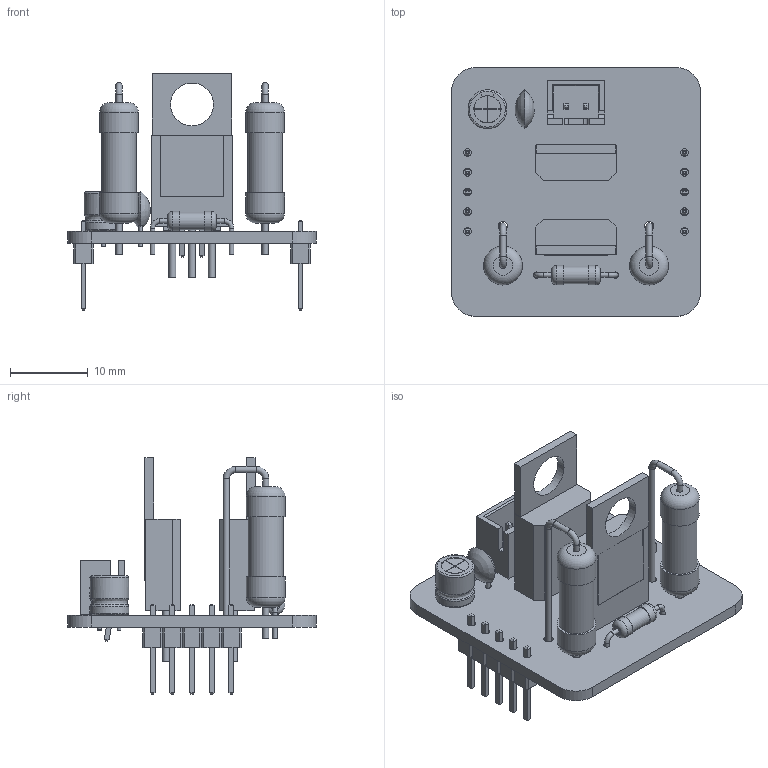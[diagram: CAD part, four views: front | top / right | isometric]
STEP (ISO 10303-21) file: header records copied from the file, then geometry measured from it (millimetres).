
FILE_DESCRIPTION(('KiCad electronic assembly'),'2;1');
FILE_NAME('Basic_Laser_Driver.step','2026-10-09T15:44:59',('Pcbnew'),( 'Kicad'),'Open CASCADE STEP processor 7.9','KiCad to STEP converter' ,'Unknown');
FILE_SCHEMA(('AUTOMOTIVE_DESIGN { 1 0 10303 214 1 1 1 1 }'));
Length unit declared in the file: millimetre
Products named in the file (9): Basic_Laser_Driver 1; CP_Radial_D5.0mm_P2.50mm; TO-220_STM; R_Axial_DIN0516_L15.5mm_D5.0mm_P5.08mm_Vertical; JST_XH_B2B-XH-A_1x02_P2.50mm_Vertical; C_Disc_D5.0mm_W2.5mm_P2.50mm; R_Axial_DIN0207_L6.3mm_D2.5mm_P10.16mm_Horizontal; PinHeader_1x05_P2.54mm_Vertical; Basic_Laser_Driver_PCB
Assembly tree (11 placements, depth 2):
  Basic_Laser_Driver 1
    CP_Radial_D5.0mm_P2.50mm
    TO-220_STM  x2
    R_Axial_DIN0516_L15.5mm_D5.0mm_P5.08mm_Vertical  x2
    JST_XH_B2B-XH-A_1x02_P2.50mm_Vertical
    C_Disc_D5.0mm_W2.5mm_P2.50mm
    R_Axial_DIN0207_L6.3mm_D2.5mm_P10.16mm_Horizontal
    PinHeader_1x05_P2.54mm_Vertical  x2
    Basic_Laser_Driver_PCB
Bounding box: 32 x 32 x 30.43 mm (x, y, z)
Volume: 3817.6 mm3; surface area: 5761.9 mm2
Topology: 19 solids, 20 shells, 543 faces, 1275 edges, 808 vertices
Faces by surface type: plane 434, cylinder 82, torus 14, bspline 6, revolution 5, sphere 2
Full cylindrical faces by diameter (mm): 0.5 x4, 0.6 x4, 0.8 x14, 0.889 x6, 1 x12, 1.1 x6, 1.2 x4, 2.25 x1, 2.5 x2, 4.5 x2, 5 x4
Entity records: 14111 total; most frequent: CARTESIAN_POINT 2738, DIRECTION 1784, ORIENTED_EDGE 1778, EDGE_CURVE 889, LINE 683, VECTOR 683, VERTEX_POINT 568, AXIS2_PLACEMENT_3D 548
